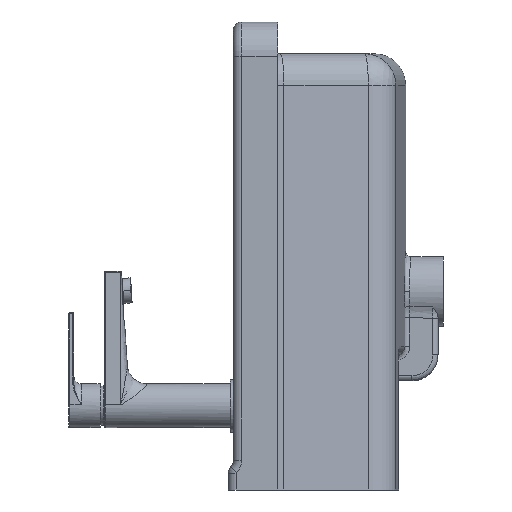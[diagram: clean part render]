
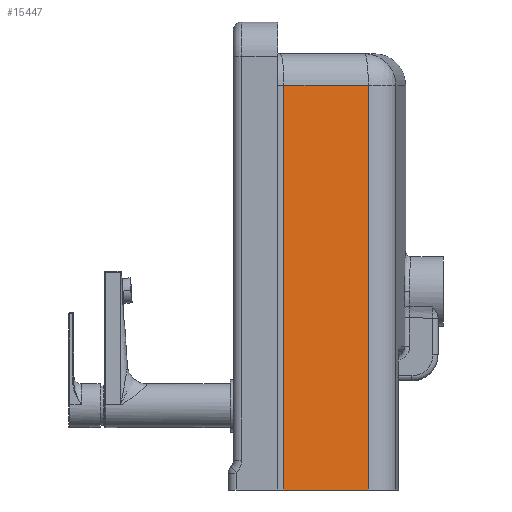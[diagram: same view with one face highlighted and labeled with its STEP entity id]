
A CAD part, left-side view. The second image highlights one B-rep face of the part: STEP entity #15447.
In plain terms, the highlighted planar face has unit normal (-0.993, -0.119, 0).
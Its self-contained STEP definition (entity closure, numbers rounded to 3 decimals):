
#1859 = CARTESIAN_POINT ( 'NONE',  ( -271.922, -32.631, -209.956 ) ) ;
#3030 = PLANE ( 'NONE',  #3386 ) ;
#3386 = AXIS2_PLACEMENT_3D ( 'NONE', #14584, #11196, #8040 ) ;
#3462 = VECTOR ( 'NONE', #11007, 1000. ) ;
#3789 = ORIENTED_EDGE ( 'NONE', *, *, #14095, .F. ) ;
#3840 = CARTESIAN_POINT ( 'NONE',  ( -339.587, 531.249, -209.956 ) ) ;
#3858 = EDGE_CURVE ( 'NONE', #4562, #9776, #12552, .T. ) ;
#4085 = VECTOR ( 'NONE', #19315, 1000. ) ;
#4562 = VERTEX_POINT ( 'NONE', #19937 ) ;
#6730 = EDGE_LOOP ( 'NONE', ( #10949, #9667, #3789, #16890 ) ) ;
#7533 = CARTESIAN_POINT ( 'NONE',  ( -329.898, 450.506, -69.456 ) ) ;
#7691 = VERTEX_POINT ( 'NONE', #8930 ) ;
#8040 = DIRECTION ( 'NONE',  ( -0.119, 0.993, 0. ) ) ;
#8275 = VECTOR ( 'NONE', #15068, 1000. ) ;
#8480 = DIRECTION ( 'NONE',  ( -0.119, 0.993, 0. ) ) ;
#8930 = CARTESIAN_POINT ( 'NONE',  ( -329.898, 450.506, 177.544 ) ) ;
#9381 = LINE ( 'NONE', #7533, #3462 ) ;
#9631 = EDGE_CURVE ( 'NONE', #7691, #4562, #13323, .T. ) ;
#9667 = ORIENTED_EDGE ( 'NONE', *, *, #3858, .T. ) ;
#9776 = VERTEX_POINT ( 'NONE', #3840 ) ;
#9935 = CARTESIAN_POINT ( 'NONE',  ( -340.496, 538.824, 177.544 ) ) ;
#10121 = LINE ( 'NONE', #1859, #10693 ) ;
#10693 = VECTOR ( 'NONE', #8480, 1000. ) ;
#10849 = VERTEX_POINT ( 'NONE', #16461 ) ;
#10949 = ORIENTED_EDGE ( 'NONE', *, *, #9631, .T. ) ;
#11007 = DIRECTION ( 'NONE',  ( 0., 0., 1. ) ) ;
#11196 = DIRECTION ( 'NONE',  ( -0.993, -0.119, 0. ) ) ;
#12552 = LINE ( 'NONE', #12656, #4085 ) ;
#12656 = CARTESIAN_POINT ( 'NONE',  ( -339.587, 531.249, -209.956 ) ) ;
#13323 = LINE ( 'NONE', #9935, #8275 ) ;
#14095 = EDGE_CURVE ( 'NONE', #10849, #9776, #10121, .T. ) ;
#14584 = CARTESIAN_POINT ( 'NONE',  ( -340.496, 538.824, -69.456 ) ) ;
#15068 = DIRECTION ( 'NONE',  ( -0.119, 0.993, 0. ) ) ;
#15447 = ADVANCED_FACE ( 'NONE', ( #19600 ), #3030, .T. ) ;
#16461 = CARTESIAN_POINT ( 'NONE',  ( -329.898, 450.506, -209.956 ) ) ;
#16890 = ORIENTED_EDGE ( 'NONE', *, *, #19714, .T. ) ;
#19315 = DIRECTION ( 'NONE',  ( 0., 0., -1. ) ) ;
#19600 = FACE_OUTER_BOUND ( 'NONE', #6730, .T. ) ;
#19714 = EDGE_CURVE ( 'NONE', #10849, #7691, #9381, .T. ) ;
#19937 = CARTESIAN_POINT ( 'NONE',  ( -339.587, 531.249, 177.544 ) ) ;
